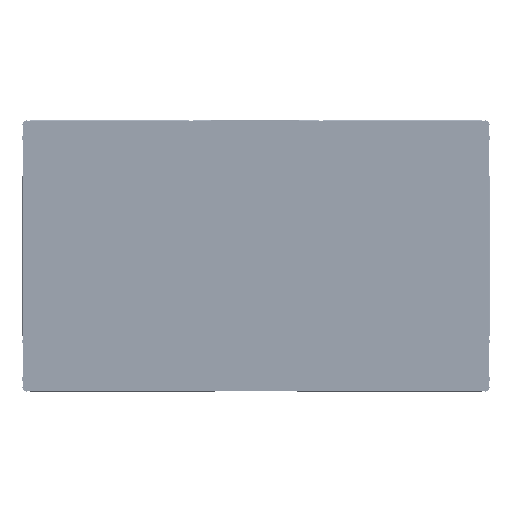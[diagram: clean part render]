
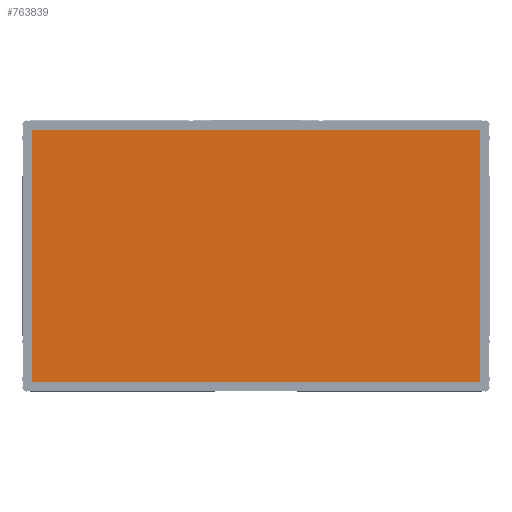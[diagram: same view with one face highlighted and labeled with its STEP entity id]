
A CAD part, top view. The second image highlights one B-rep face of the part: STEP entity #763839.
In plain terms, the highlighted planar face has unit normal (0, 0, 1).
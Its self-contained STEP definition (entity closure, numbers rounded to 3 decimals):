
#24177 = AXIS2_PLACEMENT_3D ( 'NONE', #467584, #798097, #884722 ) ;
#28963 = VERTEX_POINT ( 'NONE', #960121 ) ;
#50684 = EDGE_CURVE ( 'NONE', #891773, #667402, #134735, .T. ) ;
#63576 = ORIENTED_EDGE ( 'NONE', *, *, #699956, .T. ) ;
#93815 = VECTOR ( 'NONE', #558420, 1000. ) ;
#108149 = LINE ( 'NONE', #1039678, #855183 ) ;
#125398 = CARTESIAN_POINT ( 'NONE',  ( 0., 340.2, 7. ) ) ;
#134735 = LINE ( 'NONE', #302485, #774936 ) ;
#251234 = CARTESIAN_POINT ( 'NONE',  ( 0., -340.2, 7. ) ) ;
#299503 = PLANE ( 'NONE',  #24177 ) ;
#302485 = CARTESIAN_POINT ( 'NONE',  ( -604.8, 0., 7. ) ) ;
#320834 = FACE_OUTER_BOUND ( 'NONE', #411147, .T. ) ;
#411147 = EDGE_LOOP ( 'NONE', ( #646606, #63576, #700229, #533956 ) ) ;
#467584 = CARTESIAN_POINT ( 'NONE',  ( 0., 0., 7. ) ) ;
#470827 = CARTESIAN_POINT ( 'NONE',  ( 604.8, -340.2, 7. ) ) ;
#484640 = DIRECTION ( 'NONE',  ( 1., 0., 0. ) ) ;
#533956 = ORIENTED_EDGE ( 'NONE', *, *, #887181, .T. ) ;
#558420 = DIRECTION ( 'NONE',  ( -1., 0., 0. ) ) ;
#576913 = VECTOR ( 'NONE', #484640, 1000. ) ;
#643274 = CARTESIAN_POINT ( 'NONE',  ( -604.8, -340.2, 7. ) ) ;
#646606 = ORIENTED_EDGE ( 'NONE', *, *, #1064973, .T. ) ;
#667402 = VERTEX_POINT ( 'NONE', #643274 ) ;
#699956 = EDGE_CURVE ( 'NONE', #28963, #891773, #867634, .T. ) ;
#700229 = ORIENTED_EDGE ( 'NONE', *, *, #50684, .T. ) ;
#744663 = LINE ( 'NONE', #251234, #576913 ) ;
#763839 = ADVANCED_FACE ( 'NONE', ( #320834 ), #299503, .T. ) ;
#774936 = VECTOR ( 'NONE', #952998, 1000. ) ;
#785273 = DIRECTION ( 'NONE',  ( 0., 1., 0. ) ) ;
#798097 = DIRECTION ( 'NONE',  ( 0., 0., 1. ) ) ;
#855183 = VECTOR ( 'NONE', #785273, 1000. ) ;
#867634 = LINE ( 'NONE', #125398, #93815 ) ;
#884722 = DIRECTION ( 'NONE',  ( 1., 0., 0. ) ) ;
#887181 = EDGE_CURVE ( 'NONE', #667402, #1056450, #744663, .T. ) ;
#891773 = VERTEX_POINT ( 'NONE', #1056373 ) ;
#952998 = DIRECTION ( 'NONE',  ( 0., -1., 0. ) ) ;
#960121 = CARTESIAN_POINT ( 'NONE',  ( 604.8, 340.2, 7. ) ) ;
#1039678 = CARTESIAN_POINT ( 'NONE',  ( 604.8, 0., 7. ) ) ;
#1056373 = CARTESIAN_POINT ( 'NONE',  ( -604.8, 340.2, 7. ) ) ;
#1056450 = VERTEX_POINT ( 'NONE', #470827 ) ;
#1064973 = EDGE_CURVE ( 'NONE', #1056450, #28963, #108149, .T. ) ;
